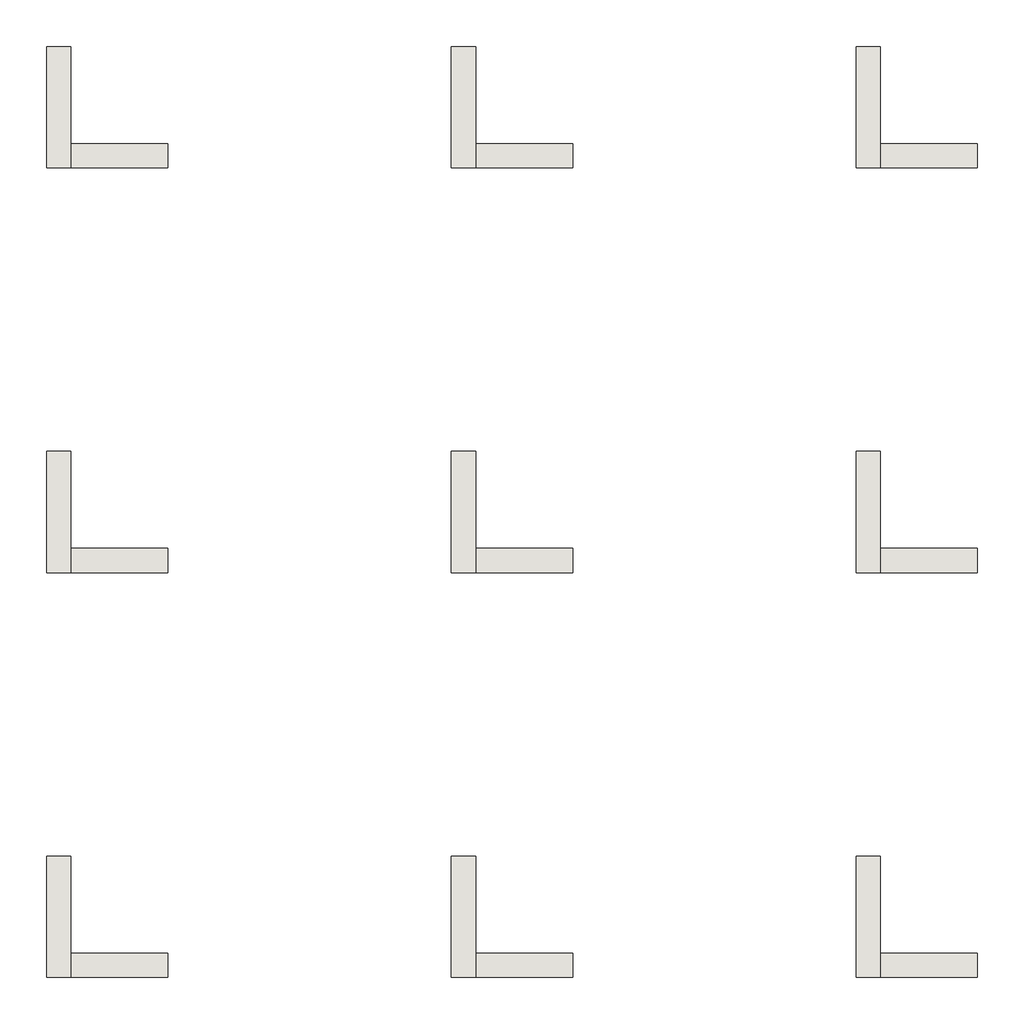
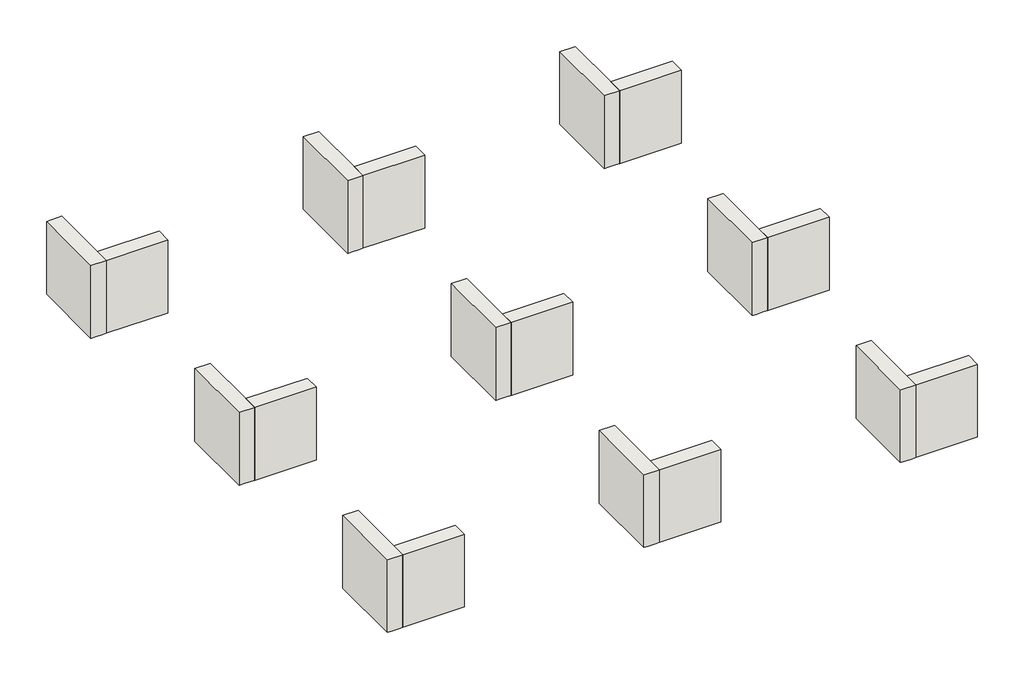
# One storey: 18 walls.
"""IFC4 building model written with IfcOpenShell, lengths in millimetres."""

from ifc_helpers import new_model, si_unit, frame, origin, place, context, project, spatial, polyline, outline, extrude, faceted_brep, element, save

model = new_model("IFC4")

# Units and contexts
model_context = context("Model", 3, world=origin())
ifc_project = project(units=[si_unit("LENGTHUNIT", "METRE", prefix="MILLI")], contexts=[model_context])

# Site, building, storey
site = spatial("IfcSite", under=ifc_project)
building = spatial("IfcBuilding", under=site)
storey = spatial("IfcBuildingStorey", under=building, Name="DESSUS DALLE - REZ-DE-CHAUSSÉE", Elevation=0.0)

# Walls
placement = place(None, origin())
element("IfcWall", 1, ObjectType="ISOBLOC-01-10", at=placement, inside=storey, context=model_context, shape_type="Brep", body=[
    faceted_brep([(6591.3200479, -4700.934624, 0.0), (6591.3200479, -5900.934624, 0.0), (6591.3200479, -5900.934624, 1200.0), (6591.3200479, -4700.934624, 1200.0), (6831.3200479, -4700.934624, 0.0), (6831.3200479, -4700.934624, 1200.0), (6831.3200479, -5660.934624, 1200.0), (6831.3200479, -5900.934624, 1200.0), (6831.3200479, -5900.934624, 0.0), (6831.3200479, -5660.934624, 0.0), (6771.3200479, -4700.934624, 0.0), (6651.3200479, -4700.934624, 0.0), (6771.3200479, -5900.934624, 0.0), (6651.3200479, -5900.934624, 0.0)], [[[0, 1, 2, 3]], [[4, 5, 6, 7, 8, 9]], [[3, 2, 7, 6, 5]], [[0, 3, 5, 4, 10, 11]], [[10, 4, 9, 8, 12]], [[1, 0, 11, 13]], [[11, 10, 12, 13]], [[2, 1, 13, 12, 8, 7]]]),
])
element("IfcWall", 2, ObjectType="ISOBLOC-01-10", at=placement, inside=storey, context=model_context, shape_type="SweptSolid", body=[
    extrude(outline(polyline([(-5900.934624, 0.0), (-5900.934624, 1200.0), (-5660.934624, 1200.0), (-5660.934624, 0.0), (-5720.934624, 0.0), (-5840.934624, 0.0), (-5900.934624, 0.0)])), frame((6831.3200479, 0.0, 0.0), z_axis=(1.0, 0.0, 0.0), x_axis=(0.0, 1.0, 0.0)), (0.0, 0.0, 1.0), 960.0),
])
element("IfcWall", 3, ObjectType="ISOBLOC-03-10", at=placement, inside=storey, context=model_context, shape_type="Brep", body=[
    faceted_brep([(10591.3200479, -4700.934624, 0.0), (10591.3200479, -5900.934624, 0.0), (10591.3200479, -5900.934624, 1200.0), (10591.3200479, -4700.934624, 1200.0), (10831.3200479, -4700.934624, 0.0), (10831.3200479, -4700.934624, 1200.0), (10831.3200479, -5660.934624, 1200.0), (10831.3200479, -5900.934624, 1200.0), (10831.3200479, -5900.934624, 0.0), (10831.3200479, -5660.934624, 0.0), (10771.3200479, -4700.934624, 0.0), (10651.3200479, -4700.934624, 0.0), (10771.3200479, -5900.934624, 0.0), (10651.3200479, -5900.934624, 0.0)], [[[0, 1, 2, 3]], [[4, 5, 6, 7, 8, 9]], [[3, 2, 7, 6, 5]], [[0, 3, 5, 4, 10, 11]], [[10, 4, 9, 8, 12]], [[1, 0, 11, 13]], [[11, 10, 12, 13]], [[2, 1, 13, 12, 8, 7]]]),
])
element("IfcWall", 4, ObjectType="ISOBLOC-03-10", at=placement, inside=storey, context=model_context, shape_type="SweptSolid", body=[
    extrude(outline(polyline([(-5900.934624, 0.0), (-5900.934624, 1200.0), (-5660.934624, 1200.0), (-5660.934624, 0.0), (-5720.934624, 0.0), (-5840.934624, 0.0), (-5900.934624, 0.0)])), frame((10831.3200479, 0.0, 0.0), z_axis=(1.0, 0.0, 0.0), x_axis=(0.0, 1.0, 0.0)), (0.0, 0.0, 1.0), 960.0),
])
element("IfcWall", 5, ObjectType="ISOBLOC-04-10", at=placement, inside=storey, context=model_context, shape_type="Brep", body=[
    faceted_brep([(14591.3200479, -4700.934624, 0.0), (14591.3200479, -5900.934624, 0.0), (14591.3200479, -5900.934624, 1200.0), (14591.3200479, -4700.934624, 1200.0), (14831.3200479, -4700.934624, 0.0), (14831.3200479, -4700.934624, 1200.0), (14831.3200479, -5660.934624, 1200.0), (14831.3200479, -5900.934624, 1200.0), (14831.3200479, -5900.934624, 0.0), (14831.3200479, -5660.934624, 0.0), (14771.3200479, -4700.934624, 0.0), (14651.3200479, -4700.934624, 0.0), (14771.3200479, -5900.934624, 0.0), (14651.3200479, -5900.934624, 0.0)], [[[0, 1, 2, 3]], [[4, 5, 6, 7, 8, 9]], [[3, 2, 7, 6, 5]], [[0, 3, 5, 4, 10, 11]], [[10, 4, 9, 8, 12]], [[1, 0, 11, 13]], [[11, 10, 12, 13]], [[2, 1, 13, 12, 8, 7]]]),
])
element("IfcWall", 6, ObjectType="ISOBLOC-04-10", at=placement, inside=storey, context=model_context, shape_type="SweptSolid", body=[
    extrude(outline(polyline([(-5900.934624, 0.0), (-5900.934624, 1200.0), (-5660.934624, 1200.0), (-5660.934624, 0.0), (-5720.934624, 0.0), (-5840.934624, 0.0), (-5900.934624, 0.0)])), frame((14831.3200479, 0.0, 0.0), z_axis=(1.0, 0.0, 0.0), x_axis=(0.0, 1.0, 0.0)), (0.0, 0.0, 1.0), 960.0),
])
element("IfcWall", 7, ObjectType="ISOBLOC-05-10", at=placement, inside=storey, context=model_context, shape_type="Brep", body=[
    faceted_brep([(6591.3200479, -8700.934624, 0.0), (6591.3200479, -9900.934624, 0.0), (6591.3200479, -9900.934624, 1200.0), (6591.3200479, -8700.934624, 1200.0), (6831.3200479, -8700.934624, 0.0), (6831.3200479, -8700.934624, 1200.0), (6831.3200479, -9660.934624, 1200.0), (6831.3200479, -9900.934624, 1200.0), (6831.3200479, -9900.934624, 0.0), (6831.3200479, -9660.934624, 0.0), (6771.3200479, -8700.934624, 0.0), (6651.3200479, -8700.934624, 0.0), (6771.3200479, -9900.934624, 0.0), (6651.3200479, -9900.934624, 0.0)], [[[0, 1, 2, 3]], [[4, 5, 6, 7, 8, 9]], [[3, 2, 7, 6, 5]], [[0, 3, 5, 4, 10, 11]], [[10, 4, 9, 8, 12]], [[1, 0, 11, 13]], [[11, 10, 12, 13]], [[2, 1, 13, 12, 8, 7]]]),
])
element("IfcWall", 8, ObjectType="ISOBLOC-05-10", at=placement, inside=storey, context=model_context, shape_type="SweptSolid", body=[
    extrude(outline(polyline([(-9900.934624, 0.0), (-9900.934624, 1200.0), (-9660.934624, 1200.0), (-9660.934624, 0.0), (-9720.934624, 0.0), (-9840.934624, 0.0), (-9900.934624, 0.0)])), frame((6831.3200479, 0.0, 0.0), z_axis=(1.0, 0.0, 0.0), x_axis=(0.0, 1.0, 0.0)), (0.0, 0.0, 1.0), 960.0),
])
element("IfcWall", 9, ObjectType="ISOBLOC-10-10", at=placement, inside=storey, context=model_context, shape_type="Brep", body=[
    faceted_brep([(10591.3200479, -8700.934624, 0.0), (10591.3200479, -9900.934624, 0.0), (10591.3200479, -9900.934624, 1200.0), (10591.3200479, -8700.934624, 1200.0), (10831.3200479, -8700.934624, 0.0), (10831.3200479, -8700.934624, 1200.0), (10831.3200479, -9660.934624, 1200.0), (10831.3200479, -9900.934624, 1200.0), (10831.3200479, -9900.934624, 0.0), (10831.3200479, -9660.934624, 0.0), (10771.3200479, -8700.934624, 0.0), (10651.3200479, -8700.934624, 0.0), (10771.3200479, -9900.934624, 0.0), (10651.3200479, -9900.934624, 0.0)], [[[0, 1, 2, 3]], [[4, 5, 6, 7, 8, 9]], [[3, 2, 7, 6, 5]], [[0, 3, 5, 4, 10, 11]], [[10, 4, 9, 8, 12]], [[1, 0, 11, 13]], [[11, 10, 12, 13]], [[2, 1, 13, 12, 8, 7]]]),
])
element("IfcWall", 10, ObjectType="ISOBLOC-10-10", at=placement, inside=storey, context=model_context, shape_type="SweptSolid", body=[
    extrude(outline(polyline([(-9900.934624, 0.0), (-9900.934624, 1200.0), (-9660.934624, 1200.0), (-9660.934624, 0.0), (-9720.934624, 0.0), (-9840.934624, 0.0), (-9900.934624, 0.0)])), frame((10831.3200479, 0.0, 0.0), z_axis=(1.0, 0.0, 0.0), x_axis=(0.0, 1.0, 0.0)), (0.0, 0.0, 1.0), 960.0),
])
element("IfcWall", 11, ObjectType="ISOBLOC-22-10", at=placement, inside=storey, context=model_context, shape_type="Brep", body=[
    faceted_brep([(14591.3200479, -8700.934624, 0.0), (14591.3200479, -9900.934624, 0.0), (14591.3200479, -9900.934624, 1200.0), (14591.3200479, -8700.934624, 1200.0), (14831.3200479, -8700.934624, 0.0), (14831.3200479, -8700.934624, 1200.0), (14831.3200479, -9660.934624, 1200.0), (14831.3200479, -9900.934624, 1200.0), (14831.3200479, -9900.934624, 0.0), (14831.3200479, -9660.934624, 0.0), (14771.3200479, -8700.934624, 0.0), (14651.3200479, -8700.934624, 0.0), (14771.3200479, -9900.934624, 0.0), (14651.3200479, -9900.934624, 0.0)], [[[0, 1, 2, 3]], [[4, 5, 6, 7, 8, 9]], [[3, 2, 7, 6, 5]], [[0, 3, 5, 4, 10, 11]], [[10, 4, 9, 8, 12]], [[1, 0, 11, 13]], [[11, 10, 12, 13]], [[2, 1, 13, 12, 8, 7]]]),
])
element("IfcWall", 12, ObjectType="ISOBLOC-22-10", at=placement, inside=storey, context=model_context, shape_type="SweptSolid", body=[
    extrude(outline(polyline([(-9900.934624, 0.0), (-9900.934624, 1200.0), (-9660.934624, 1200.0), (-9660.934624, 0.0), (-9720.934624, 0.0), (-9840.934624, 0.0), (-9900.934624, 0.0)])), frame((14831.3200479, 0.0, 0.0), z_axis=(1.0, 0.0, 0.0), x_axis=(0.0, 1.0, 0.0)), (0.0, 0.0, 1.0), 960.0),
])
element("IfcWall", 13, ObjectType="ISOBLOC-50-10", at=placement, inside=storey, context=model_context, shape_type="Brep", body=[
    faceted_brep([(6591.3200479, -12700.934624, 0.0), (6591.3200479, -13900.934624, 0.0), (6591.3200479, -13900.934624, 1200.0), (6591.3200479, -12700.934624, 1200.0), (6831.3200479, -12700.934624, 0.0), (6831.3200479, -12700.934624, 1200.0), (6831.3200479, -13660.934624, 1200.0), (6831.3200479, -13900.934624, 1200.0), (6831.3200479, -13900.934624, 0.0), (6831.3200479, -13660.934624, 0.0), (6771.3200479, -12700.934624, 0.0), (6651.3200479, -12700.934624, 0.0), (6771.3200479, -13900.934624, 0.0), (6651.3200479, -13900.934624, 0.0)], [[[0, 1, 2, 3]], [[4, 5, 6, 7, 8, 9]], [[3, 2, 7, 6, 5]], [[0, 3, 5, 4, 10, 11]], [[10, 4, 9, 8, 12]], [[1, 0, 11, 13]], [[11, 10, 12, 13]], [[2, 1, 13, 12, 8, 7]]]),
])
element("IfcWall", 14, ObjectType="ISOBLOC-50-10", at=placement, inside=storey, context=model_context, shape_type="SweptSolid", body=[
    extrude(outline(polyline([(-13900.934624, 0.0), (-13900.934624, 1200.0), (-13660.934624, 1200.0), (-13660.934624, 0.0), (-13720.934624, 0.0), (-13840.934624, 0.0), (-13900.934624, 0.0)])), frame((6831.3200479, 0.0, 0.0), z_axis=(1.0, 0.0, 0.0), x_axis=(0.0, 1.0, 0.0)), (0.0, 0.0, 1.0), 960.0),
])
element("IfcWall", 15, ObjectType="ISOBLOC-55-10", at=placement, inside=storey, context=model_context, shape_type="Brep", body=[
    faceted_brep([(10591.3200479, -12700.934624, 0.0), (10591.3200479, -13900.934624, 0.0), (10591.3200479, -13900.934624, 1200.0), (10591.3200479, -12700.934624, 1200.0), (10831.3200479, -12700.934624, 0.0), (10831.3200479, -12700.934624, 1200.0), (10831.3200479, -13660.934624, 1200.0), (10831.3200479, -13900.934624, 1200.0), (10831.3200479, -13900.934624, 0.0), (10831.3200479, -13660.934624, 0.0), (10771.3200479, -12700.934624, 0.0), (10651.3200479, -12700.934624, 0.0), (10771.3200479, -13900.934624, 0.0), (10651.3200479, -13900.934624, 0.0)], [[[0, 1, 2, 3]], [[4, 5, 6, 7, 8, 9]], [[3, 2, 7, 6, 5]], [[0, 3, 5, 4, 10, 11]], [[10, 4, 9, 8, 12]], [[1, 0, 11, 13]], [[11, 10, 12, 13]], [[2, 1, 13, 12, 8, 7]]]),
])
element("IfcWall", 16, ObjectType="ISOBLOC-55-10", at=placement, inside=storey, context=model_context, shape_type="SweptSolid", body=[
    extrude(outline(polyline([(-13900.934624, 0.0), (-13900.934624, 1200.0), (-13660.934624, 1200.0), (-13660.934624, 0.0), (-13720.934624, 0.0), (-13840.934624, 0.0), (-13900.934624, 0.0)])), frame((10831.3200479, 0.0, 0.0), z_axis=(1.0, 0.0, 0.0), x_axis=(0.0, 1.0, 0.0)), (0.0, 0.0, 1.0), 960.0),
])
element("IfcWall", 17, ObjectType="ISOBLOC-60-10", at=placement, inside=storey, context=model_context, shape_type="Brep", body=[
    faceted_brep([(14591.3200479, -12700.934624, 0.0), (14591.3200479, -13900.934624, 0.0), (14591.3200479, -13900.934624, 1200.0), (14591.3200479, -12700.934624, 1200.0), (14831.3200479, -12700.934624, 0.0), (14831.3200479, -12700.934624, 1200.0), (14831.3200479, -13660.934624, 1200.0), (14831.3200479, -13900.934624, 1200.0), (14831.3200479, -13900.934624, 0.0), (14831.3200479, -13660.934624, 0.0), (14771.3200479, -12700.934624, 0.0), (14651.3200479, -12700.934624, 0.0), (14771.3200479, -13900.934624, 0.0), (14651.3200479, -13900.934624, 0.0)], [[[0, 1, 2, 3]], [[4, 5, 6, 7, 8, 9]], [[3, 2, 7, 6, 5]], [[0, 3, 5, 4, 10, 11]], [[10, 4, 9, 8, 12]], [[1, 0, 11, 13]], [[11, 10, 12, 13]], [[2, 1, 13, 12, 8, 7]]]),
])
element("IfcWall", 18, ObjectType="ISOBLOC-60-10", at=placement, inside=storey, context=model_context, shape_type="SweptSolid", body=[
    extrude(outline(polyline([(-13900.934624, 0.0), (-13900.934624, 1200.0), (-13660.934624, 1200.0), (-13660.934624, 0.0), (-13720.934624, 0.0), (-13840.934624, 0.0), (-13900.934624, 0.0)])), frame((14831.3200479, 0.0, 0.0), z_axis=(1.0, 0.0, 0.0), x_axis=(0.0, 1.0, 0.0)), (0.0, 0.0, 1.0), 960.0),
])

save(model, "model.ifc")
